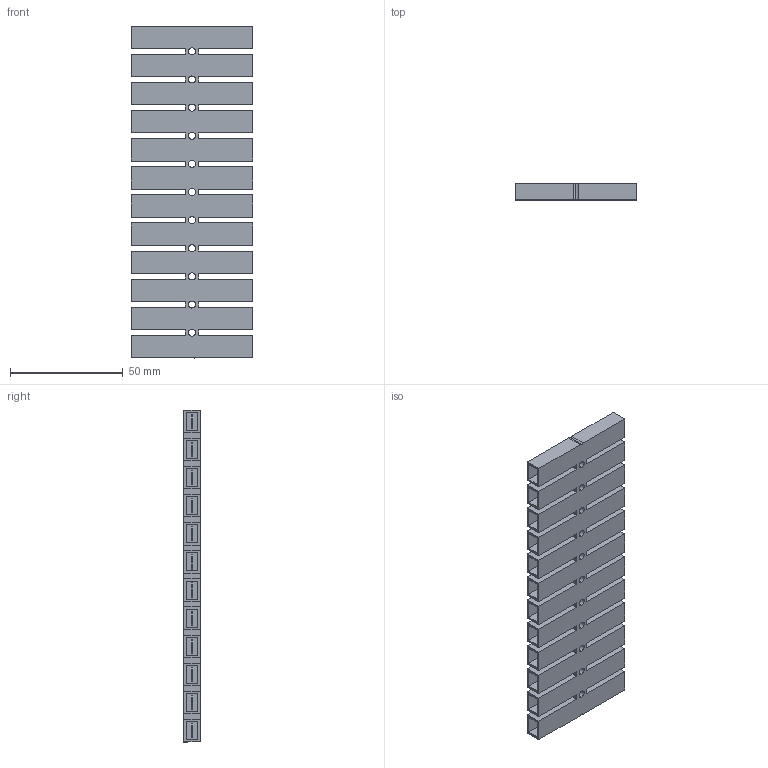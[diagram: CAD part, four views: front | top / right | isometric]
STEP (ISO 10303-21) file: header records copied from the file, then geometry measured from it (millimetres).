
FILE_DESCRIPTION (( 'STEP AP203' ), '1' );
FILE_NAME ('408-54-4.8-12.STEP', '2019-01-28T00:47:06', ( '' ), ( '' ), 'SwSTEP 2.0', 'SolidWorks 2016', '' );
FILE_SCHEMA (( 'CONFIG_CONTROL_DESIGN' ));
Length unit declared in the file: millimetre
Products named in the file (1): 408-54-4.8-12
Bounding box: 54 x 7.2 x 147.5 mm (x, y, z)
Volume: 24470.3 mm3; surface area: 41375.8 mm2
Topology: 1 solids, 1 shells, 637 faces, 1665 edges, 1078 vertices
Faces by surface type: plane 552, cylinder 85
Entity records: 19410 total; most frequent: CARTESIAN_POINT 3417, ORIENTED_EDGE 3330, DIRECTION 3099, EDGE_CURVE 1665, LINE 1483, VECTOR 1483, VERTEX_POINT 1078, AXIS2_PLACEMENT_3D 808
